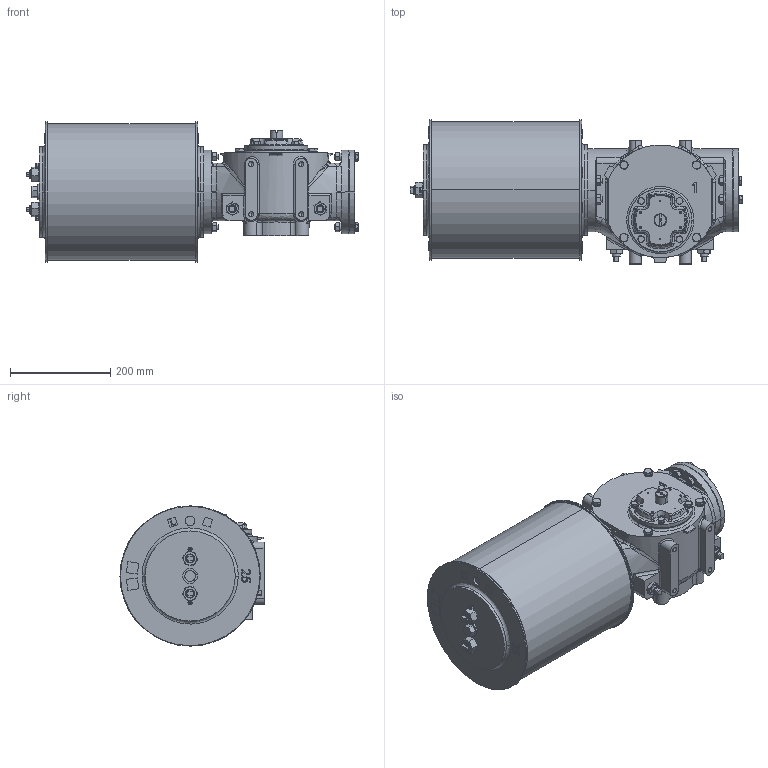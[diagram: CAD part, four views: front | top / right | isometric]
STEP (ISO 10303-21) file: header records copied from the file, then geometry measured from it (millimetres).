
FILE_DESCRIPTION (( 'STEP AP203' ), '1' );
FILE_NAME ('VTS1-250.STEP', '2022-11-20T03:28:01', ( '' ), ( '' ), 'SwSTEP 2.0', 'SolidWorks 2020', '' );
FILE_SCHEMA (( 'CONFIG_CONTROL_DESIGN' ));
Length unit declared in the file: millimetre
Products named in the file (1): VTS1-250
Bounding box: 662.58 x 287.5 x 280 mm (x, y, z)
Volume: 26470511.2 mm3; surface area: 855198.7 mm2
Topology: 3 solids, 9 shells, 1640 faces, 4332 edges, 2752 vertices
Faces by surface type: plane 613, cylinder 439, cone 307, bspline 223, torus 30, sphere 28
Entity records: 75361 total; most frequent: CARTESIAN_POINT 38351, ORIENTED_EDGE 8520, DIRECTION 6516, EDGE_CURVE 4260, VERTEX_POINT 2752, AXIS2_PLACEMENT_3D 2494, EDGE_LOOP 1796, ADVANCED_FACE 1640
